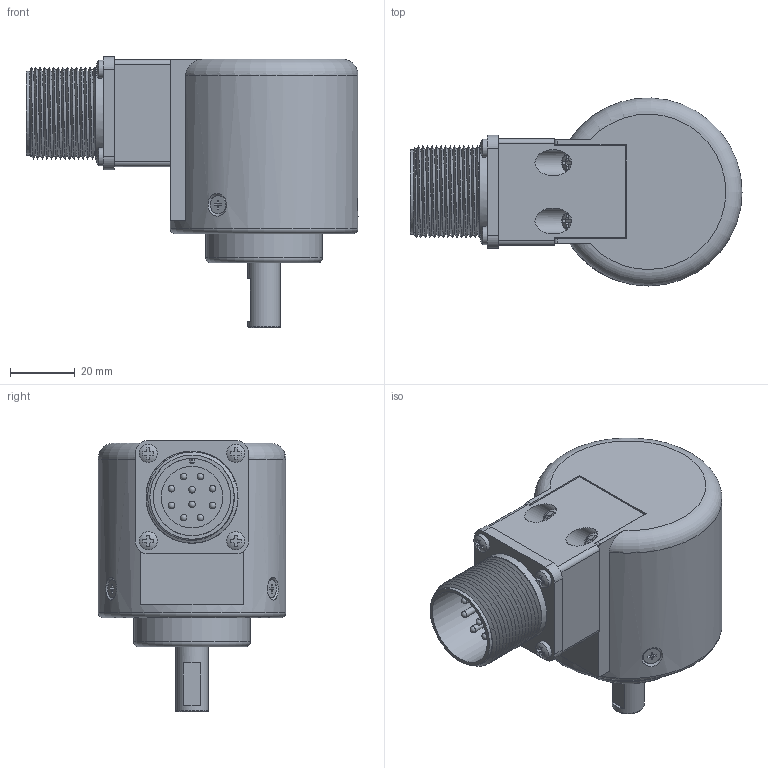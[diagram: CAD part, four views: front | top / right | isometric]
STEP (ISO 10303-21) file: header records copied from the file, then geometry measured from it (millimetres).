
FILE_DESCRIPTION(/* description */ ('Unknown'),/* implementation_level */ '2;1');
FILE_NAME(/* name */ 'EH_EL58C_BI',/* time_stamp */ '2023-03-29T17:32:28+02:00',/* author */ ('Unknown'),/* organization */ ('Unknown'),/* preprocessor_version */ 'ST-DEVELOPER v16.7',/* originating_system */ 'DEX',/* authorisation */ $);
FILE_SCHEMA (('AUTOMOTIVE_DESIGN {1 0 10303 214 3 1 1}'));
Length unit declared in the file: millimetre
Products named in the file (1): EH_EL58C_BI2
Bounding box: 102.5 x 58 x 83.7 mm (x, y, z)
Volume: 95060.7 mm3; surface area: 57844.1 mm2
Topology: 1 solids, 11 shells, 699 faces, 1844 edges, 1196 vertices
Faces by surface type: plane 293, cylinder 227, torus 66, bspline 51, cone 48, sphere 14
Full cylindrical faces by diameter (mm): 2 x22, 2.2 x15, 2.459 x4, 2.5 x9, 2.6 x10, 3 x4, 3.5 x3, 4 x2, 4.5 x2, 5.6 x7, 6 x1, 7 x1, 8 x2, 10 x10, 10.5 x1, 11 x1, 12 x1, 13.8 x1, 19 x1, 20 x1, 22 x2, 23 x1, 23.9 x1, 25.2 x1, 26 x15, 26.2 x1, 28.4 x1, 36 x1, 41 x1, 49.6 x1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
Entity records: 38434 total; most frequent: CARTESIAN_POINT 19160, DIRECTION 2881, ORIENTED_EDGE 2870, EDGE_CURVE 1435, AXIS2_PLACEMENT_3D 1130, VERTEX_POINT 1021, FACE_BOUND 928, EDGE_LOOP 916
